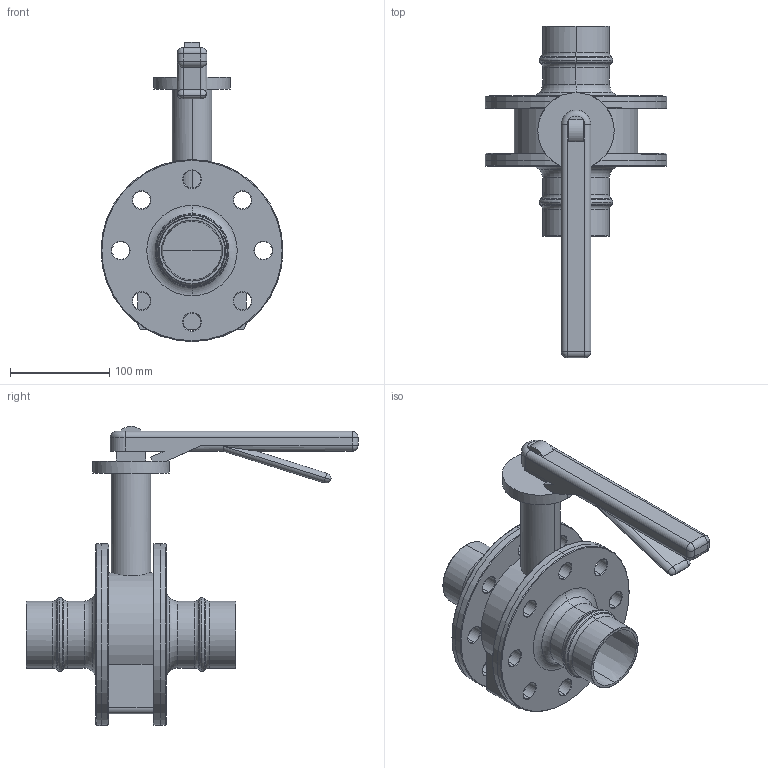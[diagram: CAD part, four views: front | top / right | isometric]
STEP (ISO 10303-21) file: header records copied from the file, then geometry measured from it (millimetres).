
FILE_DESCRIPTION((''),'2;1');
FILE_NAME('AU15605100_AU14615100_','2017-05-16T',('Administrator'),(''),'PRO/ENGINEER BY PARAMETRIC TECHNOLOGY CORPORATION, 2009360','PRO/ENGINEER BY PARAMETRIC TECHNOLOGY CORPORATION, 2009360','');
FILE_SCHEMA(('AUTOMOTIVE_DESIGN_CC2 { 1 2 10303 214 -1 1 5 2 }'));
Length unit declared in the file: millimetre
Products named in the file (1): AU15605100_AU14615100_
Bounding box: 183.63 x 335 x 301.81 mm (x, y, z)
Volume: 1722778.6 mm3; surface area: 249192.8 mm2
Topology: 1 solids, 1 shells, 245 faces, 596 edges, 345 vertices
Faces by surface type: cone 92, cylinder 63, plane 49, torus 33, sphere 8
Entity records: 9139 total; most frequent: DIRECTION 1394, CARTESIAN_POINT 1333, ORIENTED_EDGE 1184, PRESENTATION_STYLE_ASSIGNMENT 593, STYLED_ITEM 593, CURVE_STYLE 592, EDGE_CURVE 592, AXIS2_PLACEMENT_3D 573
